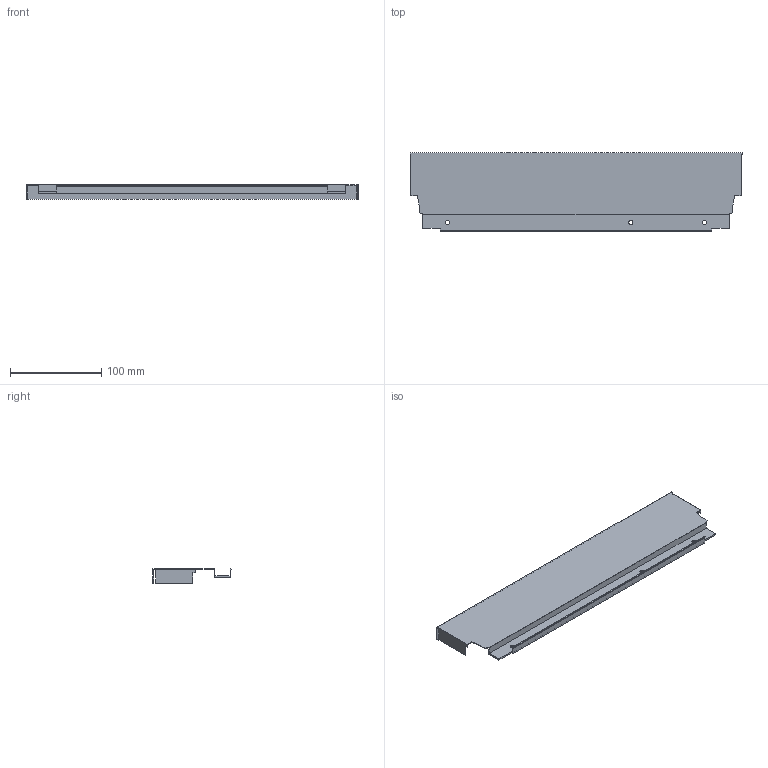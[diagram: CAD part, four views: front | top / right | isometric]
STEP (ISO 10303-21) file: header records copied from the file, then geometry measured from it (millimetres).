
FILE_DESCRIPTION (( 'STEP AP214' ), '1' );
FILE_NAME ('_DWD_XP Stahlrückwand_H86_KAB450_S19.step', '2010-07-08T12:10:31', ( 'grass' ), ( '' ), 'SwSTEP 2.0', 'SolidWorks 2010', '' );
FILE_SCHEMA (( 'AUTOMOTIVE_DESIGN' ));
Length unit declared in the file: millimetre
Products named in the file (1): _DWD_XP Stahlrückwand_H86_KAB450_S19
Bounding box: 363 x 85.79 x 16 mm (x, y, z)
Volume: 38325.9 mm3; surface area: 83987.6 mm2
Topology: 1 solids, 1 shells, 50 faces, 144 edges, 96 vertices
Faces by surface type: plane 44, cylinder 6
Entity records: 1666 total; most frequent: CARTESIAN_POINT 291, ORIENTED_EDGE 288, DIRECTION 258, EDGE_CURVE 144, LINE 132, VECTOR 132, VERTEX_POINT 96, AXIS2_PLACEMENT_3D 63
